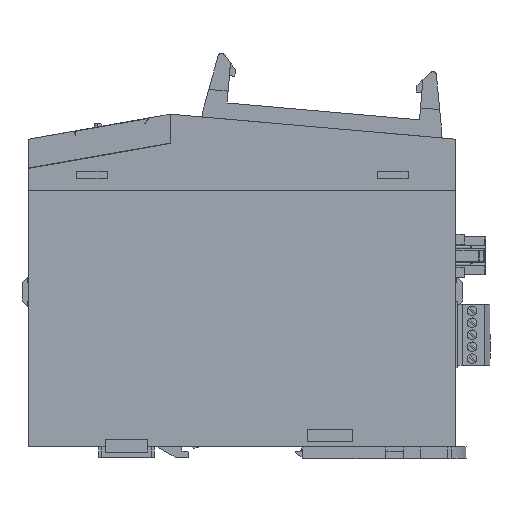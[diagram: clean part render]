
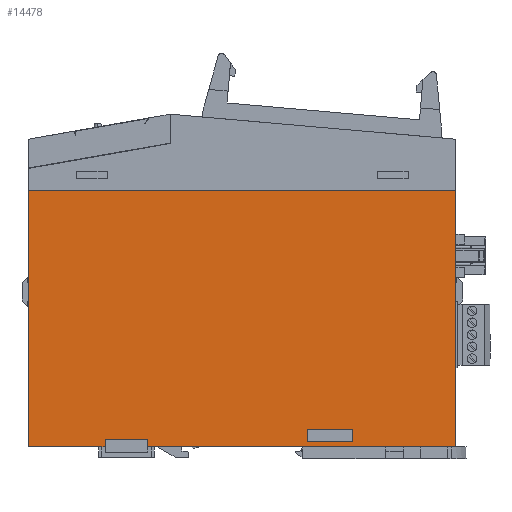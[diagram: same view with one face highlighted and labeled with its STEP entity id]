
A CAD part, left-side view. The second image highlights one B-rep face of the part: STEP entity #14478.
In plain terms, the highlighted planar face has unit normal (-1, 0, 0).
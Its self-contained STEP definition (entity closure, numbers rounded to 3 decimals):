
#138 = VECTOR ( 'NONE', #37843, 1000. ) ;
#215 = CARTESIAN_POINT ( 'NONE',  ( -29.1, 62.5, 0. ) ) ;
#1983 = DIRECTION ( 'NONE',  ( 0., 0., 1. ) ) ;
#2341 = EDGE_CURVE ( 'NONE', #24413, #11208, #42890, .T. ) ;
#2821 = ORIENTED_EDGE ( 'NONE', *, *, #11248, .T. ) ;
#4295 = ORIENTED_EDGE ( 'NONE', *, *, #26840, .T. ) ;
#4363 = VERTEX_POINT ( 'NONE', #12789 ) ;
#4420 = AXIS2_PLACEMENT_3D ( 'NONE', #22518, #12458, #29893 ) ;
#4577 = CARTESIAN_POINT ( 'NONE',  ( -29.1, -32.35, 5.2 ) ) ;
#5075 = LINE ( 'NONE', #22700, #18494 ) ;
#5220 = CARTESIAN_POINT ( 'NONE',  ( -29.1, 40.15, 2.2 ) ) ;
#5303 = ORIENTED_EDGE ( 'NONE', *, *, #19269, .F. ) ;
#6067 = FACE_OUTER_BOUND ( 'NONE', #40755, .T. ) ;
#6572 = LINE ( 'NONE', #9341, #32898 ) ;
#7010 = ORIENTED_EDGE ( 'NONE', *, *, #23665, .F. ) ;
#7139 = LINE ( 'NONE', #38150, #40934 ) ;
#7256 = DIRECTION ( 'NONE',  ( 0., -1., 0. ) ) ;
#7791 = LINE ( 'NONE', #38055, #39978 ) ;
#8661 = CARTESIAN_POINT ( 'NONE',  ( -29.1, 62.5, 0. ) ) ;
#9095 = CARTESIAN_POINT ( 'NONE',  ( -29.1, 62.5, 74.95 ) ) ;
#9341 = CARTESIAN_POINT ( 'NONE',  ( -29.1, -62.5, 97.31 ) ) ;
#9486 = VERTEX_POINT ( 'NONE', #12641 ) ;
#9962 = ORIENTED_EDGE ( 'NONE', *, *, #20078, .F. ) ;
#10288 = EDGE_LOOP ( 'NONE', ( #11026, #5303, #35054, #31112 ) ) ;
#10695 = VECTOR ( 'NONE', #20469, 1000. ) ;
#11026 = ORIENTED_EDGE ( 'NONE', *, *, #30615, .F. ) ;
#11208 = VERTEX_POINT ( 'NONE', #22489 ) ;
#11248 = EDGE_CURVE ( 'NONE', #32428, #17258, #11385, .T. ) ;
#11385 = LINE ( 'NONE', #16318, #37691 ) ;
#11658 = LINE ( 'NONE', #24312, #38494 ) ;
#12458 = DIRECTION ( 'NONE',  ( 1., 0., 0. ) ) ;
#12641 = CARTESIAN_POINT ( 'NONE',  ( -29.1, 40.15, 2.2 ) ) ;
#12789 = CARTESIAN_POINT ( 'NONE',  ( -29.1, 40.15, 0. ) ) ;
#13508 = EDGE_CURVE ( 'NONE', #26501, #24413, #7791, .T. ) ;
#13999 = CARTESIAN_POINT ( 'NONE',  ( -29.1, 27.85, 0. ) ) ;
#14478 = ADVANCED_FACE ( 'NONE', ( #18961, #6067 ), #29307, .F. ) ;
#14593 = CARTESIAN_POINT ( 'NONE',  ( -29.1, 40.15, -1.5 ) ) ;
#14898 = ORIENTED_EDGE ( 'NONE', *, *, #29431, .F. ) ;
#15251 = CARTESIAN_POINT ( 'NONE',  ( -29.1, -62.5, 74.95 ) ) ;
#15404 = LINE ( 'NONE', #39412, #32613 ) ;
#15707 = VERTEX_POINT ( 'NONE', #22738 ) ;
#16318 = CARTESIAN_POINT ( 'NONE',  ( -29.1, 62.5, 97.31 ) ) ;
#17019 = CARTESIAN_POINT ( 'NONE',  ( -29.1, -19.15, 5.2 ) ) ;
#17258 = VERTEX_POINT ( 'NONE', #8661 ) ;
#18200 = VERTEX_POINT ( 'NONE', #13999 ) ;
#18494 = VECTOR ( 'NONE', #1983, 1000. ) ;
#18961 = FACE_BOUND ( 'NONE', #10288, .T. ) ;
#19269 = EDGE_CURVE ( 'NONE', #11208, #15707, #7139, .T. ) ;
#19450 = EDGE_CURVE ( 'NONE', #9486, #4363, #35044, .T. ) ;
#20078 = EDGE_CURVE ( 'NONE', #40679, #9486, #40323, .T. ) ;
#20168 = CARTESIAN_POINT ( 'NONE',  ( -29.1, -19.15, 1.5 ) ) ;
#20469 = DIRECTION ( 'NONE',  ( 0., 0., -1. ) ) ;
#21728 = DIRECTION ( 'NONE',  ( 0., 1., 0. ) ) ;
#21965 = VERTEX_POINT ( 'NONE', #31844 ) ;
#22489 = CARTESIAN_POINT ( 'NONE',  ( -29.1, -19.15, 1.5 ) ) ;
#22518 = CARTESIAN_POINT ( 'NONE',  ( -29.1, 62.5, 97.31 ) ) ;
#22700 = CARTESIAN_POINT ( 'NONE',  ( -29.1, 27.85, -1.5 ) ) ;
#22738 = CARTESIAN_POINT ( 'NONE',  ( -29.1, -32.35, 1.5 ) ) ;
#22792 = DIRECTION ( 'NONE',  ( 0., 0., -1. ) ) ;
#23665 = EDGE_CURVE ( 'NONE', #32428, #32245, #11658, .T. ) ;
#23858 = EDGE_CURVE ( 'NONE', #17258, #4363, #15404, .T. ) ;
#24312 = CARTESIAN_POINT ( 'NONE',  ( -29.1, 62.5, 74.95 ) ) ;
#24322 = LINE ( 'NONE', #215, #30240 ) ;
#24413 = VERTEX_POINT ( 'NONE', #17019 ) ;
#25255 = DIRECTION ( 'NONE',  ( 0., 0., -1. ) ) ;
#25924 = VECTOR ( 'NONE', #25255, 1000. ) ;
#26501 = VERTEX_POINT ( 'NONE', #4577 ) ;
#26840 = EDGE_CURVE ( 'NONE', #18200, #21965, #24322, .T. ) ;
#29100 = ORIENTED_EDGE ( 'NONE', *, *, #19450, .F. ) ;
#29165 = ORIENTED_EDGE ( 'NONE', *, *, #23858, .T. ) ;
#29307 = PLANE ( 'NONE',  #4420 ) ;
#29354 = CARTESIAN_POINT ( 'NONE',  ( -29.1, -32.35, 1.5 ) ) ;
#29431 = EDGE_CURVE ( 'NONE', #18200, #40679, #5075, .T. ) ;
#29893 = DIRECTION ( 'NONE',  ( 0., 1., 0. ) ) ;
#30152 = VECTOR ( 'NONE', #21728, 1000. ) ;
#30240 = VECTOR ( 'NONE', #7256, 1000. ) ;
#30615 = EDGE_CURVE ( 'NONE', #15707, #26501, #37719, .T. ) ;
#31112 = ORIENTED_EDGE ( 'NONE', *, *, #13508, .F. ) ;
#31335 = DIRECTION ( 'NONE',  ( 0., 1., 0. ) ) ;
#31844 = CARTESIAN_POINT ( 'NONE',  ( -29.1, -62.5, 0. ) ) ;
#32245 = VERTEX_POINT ( 'NONE', #15251 ) ;
#32428 = VERTEX_POINT ( 'NONE', #9095 ) ;
#32613 = VECTOR ( 'NONE', #42577, 1000. ) ;
#32730 = CARTESIAN_POINT ( 'NONE',  ( -29.1, 27.85, 2.2 ) ) ;
#32898 = VECTOR ( 'NONE', #36933, 1000. ) ;
#35044 = LINE ( 'NONE', #14593, #25924 ) ;
#35054 = ORIENTED_EDGE ( 'NONE', *, *, #2341, .F. ) ;
#36933 = DIRECTION ( 'NONE',  ( 0., 0., -1. ) ) ;
#36938 = EDGE_CURVE ( 'NONE', #32245, #21965, #6572, .T. ) ;
#37691 = VECTOR ( 'NONE', #22792, 1000. ) ;
#37719 = LINE ( 'NONE', #29354, #138 ) ;
#37843 = DIRECTION ( 'NONE',  ( 0., 0., 1. ) ) ;
#38003 = DIRECTION ( 'NONE',  ( 0., -1., 0. ) ) ;
#38055 = CARTESIAN_POINT ( 'NONE',  ( -29.1, -19.15, 5.2 ) ) ;
#38150 = CARTESIAN_POINT ( 'NONE',  ( -29.1, -19.15, 1.5 ) ) ;
#38494 = VECTOR ( 'NONE', #44251, 1000. ) ;
#39412 = CARTESIAN_POINT ( 'NONE',  ( -29.1, 62.5, 0. ) ) ;
#39978 = VECTOR ( 'NONE', #31335, 1000. ) ;
#40323 = LINE ( 'NONE', #5220, #30152 ) ;
#40679 = VERTEX_POINT ( 'NONE', #32730 ) ;
#40755 = EDGE_LOOP ( 'NONE', ( #42554, #7010, #2821, #29165, #29100, #9962, #14898, #4295 ) ) ;
#40934 = VECTOR ( 'NONE', #38003, 1000. ) ;
#42554 = ORIENTED_EDGE ( 'NONE', *, *, #36938, .F. ) ;
#42577 = DIRECTION ( 'NONE',  ( 0., -1., 0. ) ) ;
#42890 = LINE ( 'NONE', #20168, #10695 ) ;
#44251 = DIRECTION ( 'NONE',  ( 0., -1., 0. ) ) ;
